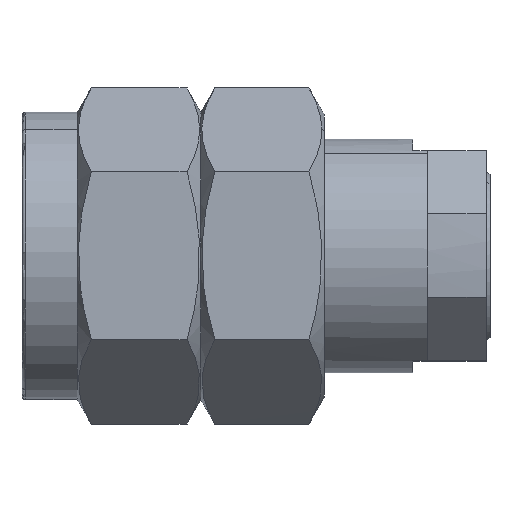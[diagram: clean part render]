
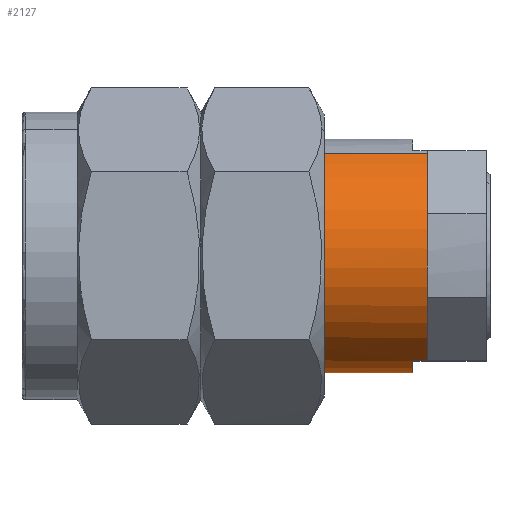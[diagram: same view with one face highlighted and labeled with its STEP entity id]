
A CAD part, top view. The second image highlights one B-rep face of the part: STEP entity #2127.
In plain terms, the highlighted cylindrical face has radius 3.175 mm (diameter 6.35 mm), a partial arc.
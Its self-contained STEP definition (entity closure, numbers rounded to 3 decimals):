
#1983=CARTESIAN_POINT('Vertex',(8.2,-2.786,-1.522)) ;
#1985=CARTESIAN_POINT('Vertex',(8.2,2.786,1.522)) ;
#1989=CARTESIAN_POINT('Control Point',(8.2,2.786,1.522)) ;
#1990=CARTESIAN_POINT('Control Point',(8.2,2.619,1.829)) ;
#1991=CARTESIAN_POINT('Control Point',(8.2,2.409,2.112)) ;
#1992=CARTESIAN_POINT('Control Point',(8.2,2.162,2.365)) ;
#1993=CARTESIAN_POINT('Control Point',(8.2,1.604,2.796)) ;
#1994=CARTESIAN_POINT('Control Point',(8.2,0.951,3.06)) ;
#1995=CARTESIAN_POINT('Control Point',(8.2,0.608,3.146)) ;
#1996=CARTESIAN_POINT('Control Point',(8.2,-0.093,3.222)) ;
#1997=CARTESIAN_POINT('Control Point',(8.2,-0.789,3.105)) ;
#1998=CARTESIAN_POINT('Control Point',(8.2,-1.126,3.)) ;
#1999=CARTESIAN_POINT('Control Point',(8.2,-1.763,2.698)) ;
#2000=CARTESIAN_POINT('Control Point',(8.2,-2.295,2.236)) ;
#2001=CARTESIAN_POINT('Control Point',(8.2,-2.528,1.969)) ;
#2002=CARTESIAN_POINT('Control Point',(8.2,-2.913,1.379)) ;
#2003=CARTESIAN_POINT('Control Point',(8.2,-3.125,0.707)) ;
#2004=CARTESIAN_POINT('Control Point',(8.2,-3.184,0.358)) ;
#2005=CARTESIAN_POINT('Control Point',(8.2,-3.201,-0.246)) ;
#2006=CARTESIAN_POINT('Control Point',(8.2,-3.079,-0.834)) ;
#2007=CARTESIAN_POINT('Control Point',(8.2,-3.004,-1.073)) ;
#2008=CARTESIAN_POINT('Control Point',(8.2,-2.906,-1.304)) ;
#2009=CARTESIAN_POINT('Control Point',(8.2,-2.786,-1.522)) ;
#2025=CARTESIAN_POINT('Vertex',(11.,-2.786,-1.522)) ;
#2030=CARTESIAN_POINT('Line Origine',(5.532,-2.786,-1.522)) ;
#2035=CARTESIAN_POINT('Line Origine',(5.532,2.786,1.522)) ;
#2039=CARTESIAN_POINT('Vertex',(11.,2.786,1.522)) ;
#2079=CARTESIAN_POINT('Axis2P3D Location',(5.532,0.,0.)) ;
#2084=CARTESIAN_POINT('Axis2P3D Location',(11.,0.,0.)) ;
#2088=CARTESIAN_POINT('Vertex',(11.,-2.85,1.399)) ;
#2091=CARTESIAN_POINT('Axis2P3D Location',(11.,0.,0.)) ;
#2095=CARTESIAN_POINT('Vertex',(11.,-2.85,-1.399)) ;
#2098=CARTESIAN_POINT('Line Origine',(5.532,-2.85,-1.399)) ;
#2102=CARTESIAN_POINT('Vertex',(10.6,-2.85,-1.399)) ;
#2105=CARTESIAN_POINT('Axis2P3D Location',(10.6,0.,0.)) ;
#2109=CARTESIAN_POINT('Vertex',(10.6,-2.85,1.399)) ;
#2112=CARTESIAN_POINT('Line Origine',(5.532,-2.85,1.399)) ;
#2031=DIRECTION('Vector Direction',(1.,0.,0.)) ;
#2036=DIRECTION('Vector Direction',(1.,0.,0.)) ;
#2080=DIRECTION('Axis2P3D Direction',(1.,0.,0.)) ;
#2081=DIRECTION('Axis2P3D XDirection',(0.,0.878,0.479)) ;
#2085=DIRECTION('Axis2P3D Direction',(1.,0.,0.)) ;
#2092=DIRECTION('Axis2P3D Direction',(1.,0.,0.)) ;
#2099=DIRECTION('Vector Direction',(1.,0.,0.)) ;
#2106=DIRECTION('Axis2P3D Direction',(1.,0.,0.)) ;
#2113=DIRECTION('Vector Direction',(1.,0.,0.)) ;
#2082=AXIS2_PLACEMENT_3D('Cylinder Axis2P3D',#2079,#2080,#2081) ;
#2086=AXIS2_PLACEMENT_3D('Circle Axis2P3D',#2084,#2085,$) ;
#2093=AXIS2_PLACEMENT_3D('Circle Axis2P3D',#2091,#2092,$) ;
#2107=AXIS2_PLACEMENT_3D('Circle Axis2P3D',#2105,#2106,$) ;
#2118=ORIENTED_EDGE('',*,*,#2090,.F.) ;
#2119=ORIENTED_EDGE('',*,*,#2041,.F.) ;
#2120=ORIENTED_EDGE('',*,*,#2010,.T.) ;
#2121=ORIENTED_EDGE('',*,*,#2034,.T.) ;
#2122=ORIENTED_EDGE('',*,*,#2097,.F.) ;
#2123=ORIENTED_EDGE('',*,*,#2104,.T.) ;
#2124=ORIENTED_EDGE('',*,*,#2111,.F.) ;
#2125=ORIENTED_EDGE('',*,*,#2116,.T.) ;
#2032=VECTOR('Line Direction',#2031,1.) ;
#2037=VECTOR('Line Direction',#2036,1.) ;
#2100=VECTOR('Line Direction',#2099,1.) ;
#2114=VECTOR('Line Direction',#2113,1.) ;
#2127=ADVANCED_FACE('',(#2126),#2083,.T.) ;
#1988=B_SPLINE_CURVE_WITH_KNOTS('',5,(#1989,#1990,#1991,#1992,#1993,#1994,#1995,#1996,#1997,#1998,#1999,#2000,#2001,#2002,#2003,#2004,#2005,#2006,#2007,#2008,#2009),.UNSPECIFIED.,.F.,.U.,(6,3,3,3,3,3,6),(0.,2.469,4.938,7.407,9.876,12.345,14.106),.UNSPECIFIED.) ;
#2087=CIRCLE('generated circle',#2086,3.175) ;
#2094=CIRCLE('generated circle',#2093,3.175) ;
#2108=CIRCLE('generated circle',#2107,3.175) ;
#2083=CYLINDRICAL_SURFACE('generated cylinder',#2082,3.175) ;
#2010=EDGE_CURVE('',#1986,#1984,#1988,.T.) ;
#2034=EDGE_CURVE('',#1984,#2026,#2033,.T.) ;
#2041=EDGE_CURVE('',#1986,#2040,#2038,.T.) ;
#2090=EDGE_CURVE('',#2040,#2089,#2087,.T.) ;
#2097=EDGE_CURVE('',#2096,#2026,#2094,.T.) ;
#2104=EDGE_CURVE('',#2096,#2103,#2101,.F.) ;
#2111=EDGE_CURVE('',#2110,#2103,#2108,.T.) ;
#2116=EDGE_CURVE('',#2110,#2089,#2115,.T.) ;
#2117=EDGE_LOOP('',(#2118,#2119,#2120,#2121,#2122,#2123,#2124,#2125)) ;
#2126=FACE_OUTER_BOUND('',#2117,.T.) ;
#2033=LINE('Line',#2030,#2032) ;
#2038=LINE('Line',#2035,#2037) ;
#2101=LINE('Line',#2098,#2100) ;
#2115=LINE('Line',#2112,#2114) ;
#1984=VERTEX_POINT('',#1983) ;
#1986=VERTEX_POINT('',#1985) ;
#2026=VERTEX_POINT('',#2025) ;
#2040=VERTEX_POINT('',#2039) ;
#2089=VERTEX_POINT('',#2088) ;
#2096=VERTEX_POINT('',#2095) ;
#2103=VERTEX_POINT('',#2102) ;
#2110=VERTEX_POINT('',#2109) ;
